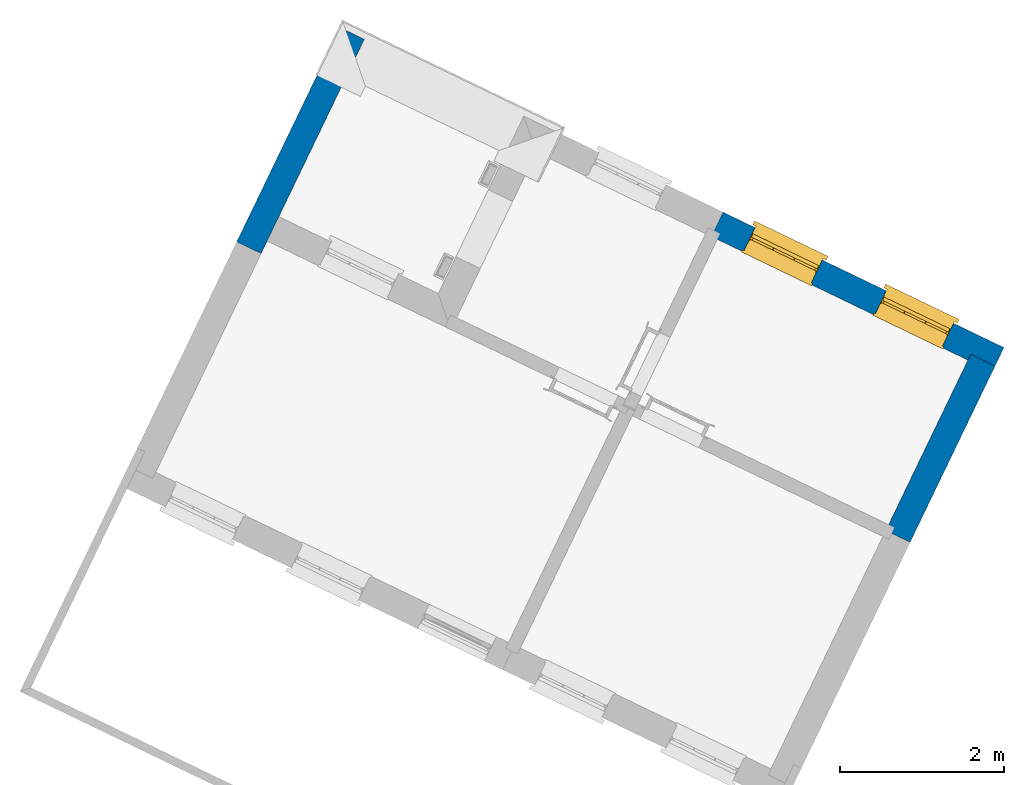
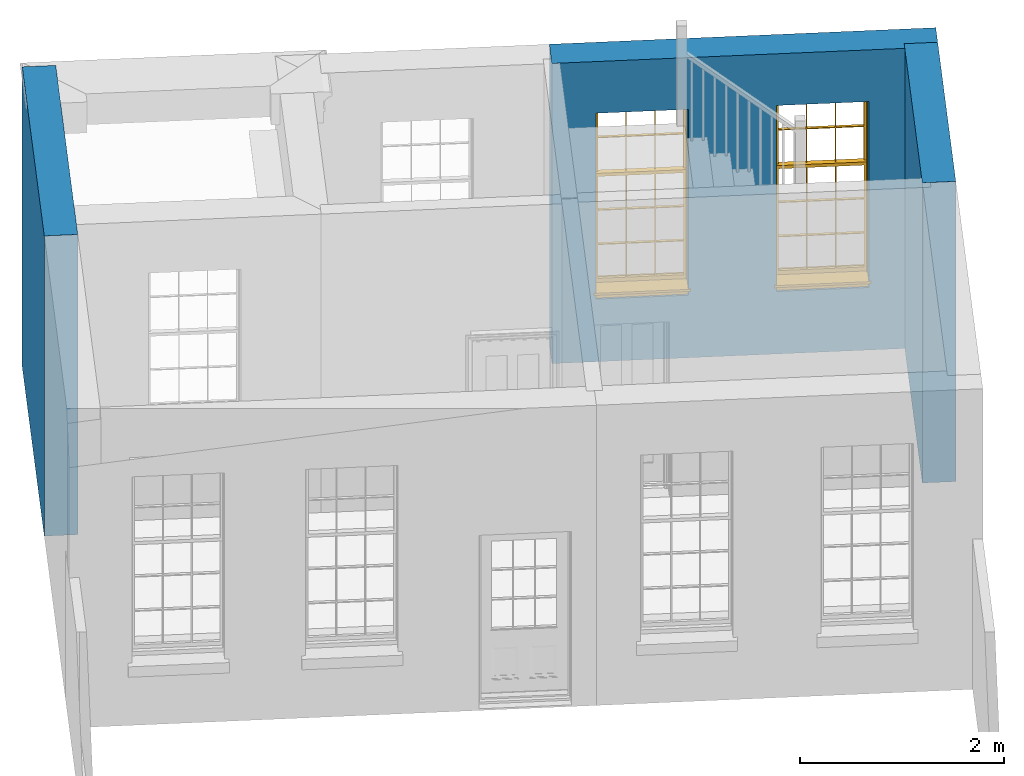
# One storey, part 4 of 6: 3 walls, 2 windows, 2 openings.
"""IFC4 building model written with IfcOpenShell, lengths in metres."""

from ifc_helpers import new_model, si_unit, frame, origin, origin_with_axes, place, context, subcontext, project, spatial, polyline, outline, extrude, faceted_brep, source, transform, mapped, material, layer, layer_set, layer_usage, type_object, type_shapes, element, fill, save


model = new_model("IFC4")

# Units and contexts
model_context = context("Model", 3, world=origin_with_axes())
body_context = subcontext(model_context, "Body", "Model", "MODEL_VIEW")
ifc_project = project(units=[si_unit("PLANEANGLEUNIT", "RADIAN"), si_unit("MASSUNIT", "GRAM", prefix="KILO"), si_unit("FORCEUNIT", "NEWTON", prefix="KILO"), si_unit("LENGTHUNIT", "METRE"), si_unit("AREAUNIT", "SQUARE_METRE"), si_unit("VOLUMEUNIT", "CUBIC_METRE")], contexts=[model_context, model_context])

# Sites, building, storey
site_1_placement = place(None, origin_with_axes())
site_1 = spatial("IfcSite", under=ifc_project, at=site_1_placement, Name="Tamar")
site_2_placement = place(site_1_placement, origin_with_axes())
site_2 = spatial("IfcSite", under=site_1, at=site_2_placement, Name="Site plot-1", CompositionType="ELEMENT")
building_placement = place(None, origin_with_axes())
building = spatial("IfcBuilding", under=site_2, at=building_placement, Name="Building plot-1", CompositionType="ELEMENT")
storey_placement = place(None, frame((0.0, 0.0, 26.0), z_axis=(0.0, 0.0, 1.0), x_axis=(1.0, 0.0, 0.0)))
storey = spatial("IfcBuildingStorey", under=building, at=storey_placement, Name="plot-1 0", CompositionType="ELEMENT", Elevation=26.0)

# Wall, openings, windows
ifc_material_1 = material(Name="Masonry")
ifc_layer_1 = layer(ifc_material_1, 0.33, ventilated=False)
ifc_layer_set_1 = layer_set([ifc_layer_1], Name="exterior_0.08_0.25")
ifc_layer_usage_1 = layer_usage(ifc_layer_set_1, "AXIS2", "POSITIVE", -0.25)
wall_type_1 = type_object("IfcWallType", Name="exterior_0.08_0.25", PredefinedType="SOLIDWALL", material=ifc_layer_set_1)
wall_1_placement = place(storey_placement, frame((229.506015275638, 296.172674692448, 0.0), z_axis=(0.0, 0.0, 1.0), x_axis=(-0.900856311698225, 0.434117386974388, 0.0)))
wall_1 = element("IfcWall", 1, at=wall_1_placement, inside=storey, type_object=wall_type_1, material=ifc_layer_usage_1, Name="exterior", context=body_context, shape_type="SweptSolid", body=[
    extrude(outline(polyline([(-0.250000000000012, 0.0800000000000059), (-0.250000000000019, -0.250000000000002), (3.55672877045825, -0.249999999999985), (3.55672877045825, 0.0800000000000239), (-0.250000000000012, 0.0800000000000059)])), origin_with_axes(), (0.0, 0.0, 1.0), 3.6),
])
opening_1_placement = place(wall_1_placement, frame((0.43418219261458, 0.0, 0.75)))
opening_1 = element("IfcOpeningElement", 2, at=opening_1_placement, cuts=wall_1, Name="My Opening", ObjectType="Opening", context=body_context, shape_type="SweptSolid", body=[
    extrude(outline(polyline([(0.0, -0.270000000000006), (0.909999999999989, -0.270000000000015), (0.90999999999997, 1.09999999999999), (-1.90403248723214e-14, 1.1), (0.0, -0.270000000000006)])), origin_with_axes(), (0.0, 0.0, 1.0), 2.23),
])
opening_2_placement = place(wall_1_placement, frame((2.21254657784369, 0.0, 0.75)))
opening_2 = element("IfcOpeningElement", 3, at=opening_2_placement, cuts=wall_1, Name="My Opening", ObjectType="Opening", context=body_context, shape_type="SweptSolid", body=[
    extrude(outline(polyline([(0.0, -0.269999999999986), (0.910000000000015, -0.269999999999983), (0.909999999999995, 1.10000000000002), (-1.90958360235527e-14, 1.10000000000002), (0.0, -0.269999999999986)])), origin_with_axes(), (0.0, 0.0, 1.0), 2.23),
])
window_type = type_object("IfcWindowType", Name="sash_big_taller", PartitioningType="DOUBLE_PANEL_HORIZONTAL", PredefinedType="NOTDEFINED")
shared_shape = source(origin(), body_context, "Body", "Brep", [
    faceted_brep([(0.033125, 0.145, 1.385209), (0.01, 0.145, 1.385209), (0.033125, 0.145, 1.786042), (0.876875, 0.145, 1.385209), (0.876875, 0.145, 1.786042), (0.9, 0.145, 1.385209), (0.876875, 0.145, 1.796042), (0.876875, 0.145, 2.196875), (0.9, 0.145, 2.22), (0.033125, 0.145, 2.196875), (0.033125, 0.145, 1.796042), (0.01, 0.145, 2.22), (0.876875, 0.115, 1.786042), (0.876875, 0.115, 1.385209), (0.9, 0.115, 1.347084), (0.033125, 0.115, 2.196875), (0.01, 0.115, 2.22), (0.033125, 0.115, 1.796042), (0.01, 0.115, 1.347084), (0.033125, 0.115, 1.385209), (0.033125, 0.115, 1.786042), (0.876875, 0.115, 2.196875), (0.876875, 0.115, 1.796042), (0.9, 0.115, 2.22), (0.033125, 0.145, 1.347084), (0.01, 0.145, 1.347084), (0.033125, 0.145, 0.94625), (0.876875, 0.145, 1.347084), (0.876875, 0.145, 0.94625), (0.9, 0.145, 1.347084), (0.876875, 0.145, 0.52625), (0.876875, 0.145, 0.125417), (0.9, 0.145, 0.077167), (0.033125, 0.145, 0.125417), (0.033125, 0.145, 0.52625), (0.01, 0.145, 0.077167), (-0.0425, 0.0, 0.01), (-0.0425, -0.05, 0.001667), (0.0, 0.0, 0.01), (0.9525, 0.0, 0.01), (0.91, 0.0, 0.01), (0.9525, -0.05, 0.001667), (-0.02, 0.33, 0.077167), (0.0, 0.33, 0.077167), (-0.02, 0.36, 0.077167), (0.0, 0.19, 0.077167), (0.01, 0.19, 0.077167), (0.91, 0.19, 0.077167), (0.91, 0.33, 0.077167), (0.9, 0.19, 0.077167), (0.93, 0.33, 0.077167), (0.93, 0.36, 0.077167), (0.01, 0.175, 1.385209), (0.9, 0.175, 1.385209), (0.876875, 0.175, 0.125417), (0.876875, 0.175, 0.52625), (0.9, 0.175, 0.077167), (0.876875, 0.175, 0.94625), (0.876875, 0.175, 1.347084), (0.033125, 0.175, 0.125417), (0.01, 0.175, 0.077167), (0.033125, 0.175, 0.52625), (0.033125, 0.175, 1.347084), (0.033125, 0.175, 0.94625), (-0.02, 0.33, 0.052167), (-0.02, 0.36, 0.052167), (0.93, 0.36, 0.052167), (0.93, 0.33, 0.052167), (0.91, 0.33, 0.052167), (0.0, 0.33, 0.052167), (0.91, 0.1, 0.026667), (0.0, 0.1, 0.026667), (-0.0425, -0.05, -0.123333), (0.9525, -0.05, -0.123333), (-0.0425, 0.0, -0.123333), (0.9525, 0.0, -0.123333), (0.01, 0.19, 2.22), (0.9, 0.19, 2.22), (0.0, 0.19, 2.23), (0.91, 0.19, 2.23), (0.01, 0.1, 0.077167), (0.9, 0.1, 0.077167), (0.592292, 0.145, 0.125417), (0.592292, 0.175, 0.125417), (0.317708, 0.175, 0.125417), (0.317708, 0.145, 0.125417), (0.592292, 0.145, 0.53625), (0.317708, 0.145, 0.53625), (0.317708, 0.145, 0.52625), (0.592292, 0.145, 0.52625), (0.592292, 0.175, 0.53625), (0.317708, 0.175, 0.53625), (0.592292, 0.115, 1.796042), (0.592292, 0.145, 1.796042), (0.317708, 0.145, 1.796042), (0.317708, 0.115, 1.796042), (0.317708, 0.115, 1.786042), (0.592292, 0.115, 1.786042), (0.317708, 0.145, 1.786042), (0.592292, 0.145, 1.786042), (0.602292, 0.115, 1.786042), (0.592292, 0.115, 1.385209), (0.602292, 0.115, 1.385209), (0.602292, 0.145, 1.385209), (0.592292, 0.145, 1.385209), (0.602292, 0.145, 1.786042), (0.876875, 0.145, 0.53625), (0.876875, 0.175, 0.53625), (0.602292, 0.175, 0.53625), (0.602292, 0.145, 0.53625), (0.317708, 0.175, 0.52625), (0.307708, 0.175, 0.125417), (0.307708, 0.175, 0.52625), (0.602292, 0.175, 0.52625), (0.602292, 0.175, 0.125417), (0.592292, 0.175, 0.52625), (0.307708, 0.175, 0.53625), (0.033125, 0.175, 0.53625), (0.317708, 0.175, 1.347084), (0.317708, 0.175, 0.94625), (0.307708, 0.175, 0.94625), (0.307708, 0.175, 1.347084), (0.602292, 0.175, 1.347084), (0.602292, 0.175, 0.94625), (0.592292, 0.175, 0.94625), (0.592292, 0.175, 1.347084), (0.307708, 0.145, 0.52625), (0.307708, 0.145, 0.125417), (0.307708, 0.145, 0.53625), (0.033125, 0.145, 0.53625), (0.307708, 0.145, 1.347084), (0.307708, 0.145, 0.94625), (0.592292, 0.145, 1.347084), (0.592292, 0.145, 0.94625), (0.317708, 0.145, 0.94625), (0.317708, 0.145, 1.347084), (0.602292, 0.145, 0.94625), (0.602292, 0.145, 1.347084), (0.602292, 0.145, 0.52625), (0.602292, 0.145, 0.125417), (0.307708, 0.115, 1.796042), (0.307708, 0.115, 1.786042), (0.307708, 0.115, 1.385209), (0.317708, 0.115, 1.385209), (0.317708, 0.115, 2.196875), (0.307708, 0.115, 2.196875), (0.602292, 0.115, 2.196875), (0.592292, 0.115, 2.196875), (0.602292, 0.115, 1.796042), (0.602292, 0.145, 1.796042), (0.307708, 0.145, 1.796042), (0.307708, 0.145, 2.196875), (0.317708, 0.145, 2.196875), (0.592292, 0.145, 2.196875), (0.602292, 0.145, 2.196875), (0.307708, 0.145, 1.786042), (0.317708, 0.145, 1.385209), (0.307708, 0.145, 1.385209), (0.876875, 0.175, 0.93625), (0.033125, 0.175, 0.93625), (0.033125, 0.145, 0.93625), (0.876875, 0.145, 0.93625), (0.91, 0.1, 2.23), (0.9, 0.1, 2.22), (0.01, 0.1, 2.22), (0.0, 0.1, 2.23), (0.91, 0.0, 0.0), (0.0, 0.0, 0.0), (0.91, 0.33, 0.0), (0.0, 0.33, 0.0), (0.317708, 0.145, 0.93625), (0.592292, 0.145, 0.93625), (0.317708, 0.175, 0.93625), (0.307708, 0.175, 0.93625), (0.602292, 0.175, 0.93625), (0.592292, 0.175, 0.93625), (0.307708, 0.145, 0.93625), (0.602292, 0.145, 0.93625)], [[[0, 1, 2]], [[3, 4, 5]], [[6, 7, 8]], [[9, 10, 11]], [[12, 13, 14]], [[15, 16, 17]], [[18, 19, 20]], [[21, 22, 23]], [[24, 25, 26]], [[27, 28, 29]], [[30, 31, 32]], [[33, 34, 35]], [[14, 27, 29]], [[25, 24, 18]], [[36, 37, 38]], [[39, 40, 41]], [[42, 43, 44]], [[45, 46, 43]], [[47, 48, 49]], [[50, 51, 48]], [[1, 0, 52]], [[5, 53, 3]], [[54, 55, 56]], [[57, 58, 53]], [[59, 60, 61]], [[62, 63, 52]], [[48, 43, 46, 49]], [[51, 44, 43, 48]], [[64, 42, 44, 65]], [[65, 44, 51, 66]], [[66, 51, 50, 67]], [[65, 66, 68, 69]], [[60, 56, 49, 46]], [[70, 71, 38, 40]], [[37, 41, 40, 38]], [[37, 72, 73, 41]], [[74, 75, 73, 72]], [[8, 11, 76, 77]], [[76, 78, 79, 77]], [[32, 35, 80, 81]], [[81, 80, 71, 70]], [[82, 83, 84, 85]], [[86, 87, 88, 89]], [[86, 90, 91, 87]], [[92, 93, 94, 95]], [[92, 95, 96, 97]], [[96, 98, 99, 97]], [[100, 97, 101, 102]], [[103, 104, 99, 105]], [[97, 99, 104, 101]], [[102, 103, 105, 100]], [[106, 107, 108, 109]], [[110, 84, 111, 112]], [[113, 114, 83, 115]], [[116, 112, 61, 117]], [[90, 115, 110, 91]], [[118, 119, 120, 121]], [[122, 123, 124, 125]], [[113, 108, 107, 55]], [[126, 112, 111, 127]], [[34, 61, 112, 126]], [[89, 115, 83, 82]], [[88, 110, 115, 89]], [[85, 84, 110, 88]], [[128, 116, 117, 129]], [[130, 121, 120, 131]], [[132, 125, 124, 133]], [[134, 119, 118, 135]], [[136, 123, 122, 137]], [[138, 113, 55, 30]], [[139, 114, 113, 138]], [[138, 30, 106, 109]], [[88, 126, 127, 85]], [[138, 89, 82, 139]], [[137, 132, 133, 136]], [[128, 129, 34, 126]], [[135, 130, 131, 134]], [[140, 17, 20, 141]], [[96, 141, 142, 143]], [[144, 145, 140, 95]], [[146, 147, 92, 148]], [[100, 12, 22, 148]], [[149, 6, 4, 105]], [[94, 150, 151, 152]], [[149, 93, 153, 154]], [[99, 98, 94, 93]], [[155, 2, 10, 150]], [[156, 157, 155, 98]], [[141, 155, 157, 142]], [[20, 2, 155, 141]], [[143, 156, 98, 96]], [[140, 150, 10, 17]], [[145, 151, 150, 140]], [[147, 153, 93, 92]], [[95, 94, 152, 144]], [[22, 6, 149, 148]], [[148, 149, 154, 146]], [[100, 105, 4, 12]], [[109, 86, 89, 138]], [[108, 113, 115, 90]], [[91, 110, 112, 116]], [[87, 128, 126, 88]], [[97, 100, 148, 92]], [[141, 96, 95, 140]], [[98, 155, 150, 94]], [[105, 99, 93, 149]], [[143, 101, 104, 156]], [[135, 118, 125, 132]], [[144, 152, 153, 147]], [[127, 111, 59, 33]], [[15, 9, 151, 145]], [[146, 154, 7, 21]], [[31, 54, 114, 139]], [[36, 74, 72, 37]], [[39, 41, 73, 75]], [[18, 14, 101, 143]], [[23, 16, 144, 147]], [[83, 56, 60, 84]], [[52, 53, 125, 118]], [[53, 52, 156, 104]], [[11, 8, 153, 152]], [[14, 18, 135, 132]], [[2, 1, 11, 10]], [[8, 5, 4, 6]], [[57, 53, 56, 158]], [[60, 52, 63, 159]], [[26, 25, 35, 160]], [[32, 29, 28, 161]], [[14, 23, 22, 12]], [[18, 20, 17, 16]], [[19, 0, 2, 20]], [[17, 10, 9, 15]], [[12, 4, 3, 13]], [[21, 7, 6, 22]], [[27, 58, 57, 28]], [[30, 55, 54, 31]], [[33, 59, 61, 34]], [[26, 63, 62, 24]], [[5, 8, 77, 53]], [[76, 11, 1, 52]], [[46, 45, 78, 76]], [[49, 77, 79, 47]], [[70, 162, 163, 81]], [[71, 80, 164, 165]], [[19, 142, 157, 0]], [[102, 13, 3, 103]], [[121, 130, 24, 62]], [[29, 32, 81, 14]], [[80, 35, 25, 18]], [[60, 46, 76, 52]], [[77, 49, 56, 53]], [[23, 14, 81, 163]], [[16, 164, 80, 18]], [[35, 85, 127]], [[127, 33, 35]], [[139, 82, 32]], [[32, 31, 139]], [[32, 82, 85, 35]], [[102, 101, 14]], [[14, 13, 102]], [[18, 143, 142]], [[142, 19, 18]], [[146, 21, 23]], [[23, 147, 146]], [[16, 15, 145]], [[145, 144, 16]], [[11, 152, 151]], [[151, 9, 11]], [[154, 153, 8]], [[8, 7, 154]], [[23, 163, 164, 16]], [[162, 165, 164, 163]], [[52, 118, 121]], [[121, 62, 52]], [[125, 53, 122]], [[58, 122, 53]], [[27, 137, 122, 58]], [[56, 83, 114]], [[114, 54, 56]], [[111, 84, 60]], [[60, 59, 111]], [[137, 27, 14]], [[14, 132, 137]], [[130, 135, 18]], [[18, 24, 130]], [[157, 156, 52]], [[52, 0, 157]], [[103, 3, 53]], [[53, 104, 103]], [[79, 78, 165, 162]], [[78, 45, 71, 165]], [[162, 70, 47, 79]], [[166, 75, 74, 167]], [[68, 66, 67]], [[48, 68, 67, 50]], [[69, 64, 65]], [[42, 64, 69, 43]], [[69, 68, 168, 169]], [[70, 68, 48, 47]], [[166, 168, 68, 70]], [[43, 69, 71, 45]], [[69, 169, 167, 71]], [[168, 166, 167, 169]], [[38, 167, 74, 36]], [[71, 167, 38]], [[39, 75, 166, 40]], [[40, 166, 70]], [[133, 134, 170, 171]], [[133, 124, 119, 134]], [[28, 57, 123, 136]], [[172, 91, 116, 173]], [[174, 108, 90, 175]], [[120, 173, 159, 63]], [[124, 175, 172, 119]], [[174, 123, 57, 158]], [[176, 173, 116, 128]], [[160, 159, 173, 176]], [[171, 175, 90, 86]], [[170, 172, 175, 171]], [[87, 91, 172, 170]], [[131, 120, 63, 26]], [[177, 174, 158, 161]], [[109, 108, 174, 177]], [[177, 161, 28, 136]], [[170, 176, 128, 87]], [[177, 171, 86, 109]], [[131, 26, 160, 176]], [[136, 133, 171, 177]], [[123, 174, 175, 124]], [[119, 172, 173, 120]], [[134, 131, 176, 170]], [[129, 117, 159, 160]], [[161, 158, 107, 106]], [[35, 34, 129]], [[35, 129, 160]], [[32, 106, 30]], [[32, 161, 106]], [[56, 55, 107]], [[56, 107, 158]], [[60, 117, 61]], [[60, 159, 117]]]),
])
type_shapes(window_type, [shared_shape])
window_1_placement = place(storey_placement, frame((229.232091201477, 296.604391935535, 0.75), z_axis=(0.0, 0.0, 1.0), x_axis=(-0.819779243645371, 0.395046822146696, 0.0)))
window_1 = element("IfcWindow", 4, at=window_1_placement, inside=storey, type_object=window_type, Name="circulation street window", OverallHeight=2.23, OverallWidth=0.91, context=body_context, shape_type="MappedRepresentation", body=[
    mapped(shared_shape, transform((0.0, 0.0, 0.0), scale=1.0)),
])
fill(opening_1, window_1)
window_2_placement = place(storey_placement, frame((227.630040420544, 297.376410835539, 0.75), z_axis=(0.0, 0.0, 1.0), x_axis=(-0.819779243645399, 0.395046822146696, 0.0)))
window_2 = element("IfcWindow", 5, at=window_2_placement, inside=storey, type_object=window_type, Name="circulation street window", OverallHeight=2.23, OverallWidth=0.91, context=body_context, shape_type="MappedRepresentation", body=[
    mapped(shared_shape, transform((0.0, 0.0, 0.0), scale=1.0)),
])
fill(opening_2, window_2)

# Walls
ifc_material_2 = material(Name="Masonry")
ifc_layer_2 = layer(ifc_material_2, 0.33, ventilated=False)
ifc_layer_set_2 = layer_set([ifc_layer_2], Name="party_0.08_0.25")
ifc_layer_usage_2 = layer_usage(ifc_layer_set_2, "AXIS2", "POSITIVE", -0.25)
wall_type_2 = type_object("IfcWallType", Name="party_0.08_0.25", PredefinedType="SOLIDWALL", material=ifc_layer_set_2)
wall_2_placement = place(storey_placement, frame((228.468422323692, 294.019519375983, 0.0), z_axis=(0.0, 0.0, 1.0), x_axis=(0.434117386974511, 0.900856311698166, 0.0)))
element("IfcWall", 6, at=wall_2_placement, inside=storey, type_object=wall_type_2, material=ifc_layer_usage_2, Name="party", context=body_context, shape_type="SweptSolid", body=[
    extrude(outline(polyline([(1.36650826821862e-14, 0.0800000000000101), (5.15851675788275e-14, -0.249999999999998), (2.39012069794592, -0.249999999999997), (2.39012069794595, 0.0800000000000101), (1.36650826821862e-14, 0.0800000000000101)])), origin_with_axes(), (0.0, 0.0, 1.0), 3.6),
])
wall_3_placement = place(storey_placement, frame((221.848736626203, 299.862672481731, 0.0), z_axis=(0.0, 0.0, 1.0), x_axis=(-0.434117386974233, -0.9008563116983, 0.0)))
element("IfcWall", 7, at=wall_3_placement, inside=storey, type_object=wall_type_2, material=ifc_layer_usage_2, Name="party", context=body_context, shape_type="SweptSolid", body=[
    extrude(outline(polyline([(-0.250000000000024, 0.0799999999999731), (-0.250000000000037, -0.25000000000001), (2.65453523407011, -0.249999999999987), (2.65453523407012, 0.0799999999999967), (-0.250000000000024, 0.0799999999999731)])), origin_with_axes(), (0.0, 0.0, 1.0), 3.6),
])

save(model, "model.ifc")
